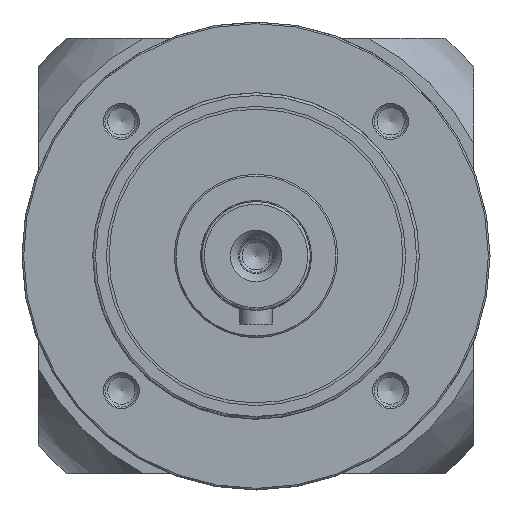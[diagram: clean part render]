
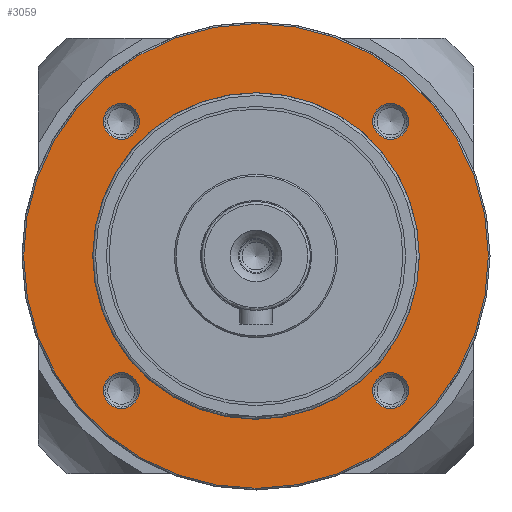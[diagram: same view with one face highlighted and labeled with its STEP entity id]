
A CAD part, left-side view. The second image highlights one B-rep face of the part: STEP entity #3059.
In plain terms, the highlighted planar face has unit normal (-1, 0, 0).
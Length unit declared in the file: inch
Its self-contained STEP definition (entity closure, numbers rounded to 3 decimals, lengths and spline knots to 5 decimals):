
#206=FACE_BOUND('',#540,.T.);
#207=FACE_BOUND('',#541,.T.);
#208=FACE_BOUND('',#542,.T.);
#209=FACE_BOUND('',#543,.T.);
#210=FACE_BOUND('',#544,.T.);
#247=PLANE('',#3295);
#338=FACE_OUTER_BOUND('',#539,.T.);
#539=EDGE_LOOP('',(#2103));
#540=EDGE_LOOP('',(#2104));
#541=EDGE_LOOP('',(#2105));
#542=EDGE_LOOP('',(#2106));
#543=EDGE_LOOP('',(#2107));
#544=EDGE_LOOP('',(#2108));
#1092=CIRCLE('',#3285,1.6811);
#1098=CIRCLE('',#3296,0.12992);
#1099=CIRCLE('',#3297,0.12992);
#1100=CIRCLE('',#3298,0.12992);
#1101=CIRCLE('',#3299,1.1811);
#1102=CIRCLE('',#3300,0.12992);
#1304=VERTEX_POINT('',#4675);
#1308=VERTEX_POINT('',#4691);
#1309=VERTEX_POINT('',#4693);
#1310=VERTEX_POINT('',#4695);
#1311=VERTEX_POINT('',#4697);
#1312=VERTEX_POINT('',#4699);
#1618=EDGE_CURVE('',#1304,#1304,#1092,.T.);
#1625=EDGE_CURVE('',#1308,#1308,#1098,.T.);
#1626=EDGE_CURVE('',#1309,#1309,#1099,.T.);
#1627=EDGE_CURVE('',#1310,#1310,#1100,.T.);
#1628=EDGE_CURVE('',#1311,#1311,#1101,.T.);
#1629=EDGE_CURVE('',#1312,#1312,#1102,.T.);
#2103=ORIENTED_EDGE('',*,*,#1618,.F.);
#2104=ORIENTED_EDGE('',*,*,#1625,.T.);
#2105=ORIENTED_EDGE('',*,*,#1626,.T.);
#2106=ORIENTED_EDGE('',*,*,#1627,.T.);
#2107=ORIENTED_EDGE('',*,*,#1628,.F.);
#2108=ORIENTED_EDGE('',*,*,#1629,.T.);
#3059=ADVANCED_FACE('',(#338,#206,#207,#208,#209,#210),#247,.T.);
#3285=AXIS2_PLACEMENT_3D('',#4676,#3702,#3703);
#3295=AXIS2_PLACEMENT_3D('',#4690,#3723,#3724);
#3296=AXIS2_PLACEMENT_3D('',#4692,#3725,#3726);
#3297=AXIS2_PLACEMENT_3D('',#4694,#3727,#3728);
#3298=AXIS2_PLACEMENT_3D('',#4696,#3729,#3730);
#3299=AXIS2_PLACEMENT_3D('',#4698,#3731,#3732);
#3300=AXIS2_PLACEMENT_3D('',#4700,#3733,#3734);
#3702=DIRECTION('center_axis',(1.,0.,0.));
#3703=DIRECTION('ref_axis',(0.,-1.,0.));
#3723=DIRECTION('center_axis',(-1.,0.,0.));
#3724=DIRECTION('ref_axis',(0.,1.,0.));
#3725=DIRECTION('center_axis',(1.,0.,0.));
#3726=DIRECTION('ref_axis',(0.,0.,-1.));
#3727=DIRECTION('center_axis',(1.,0.,0.));
#3728=DIRECTION('ref_axis',(0.,0.,-1.));
#3729=DIRECTION('center_axis',(1.,0.,0.));
#3730=DIRECTION('ref_axis',(0.,0.,-1.));
#3731=DIRECTION('center_axis',(-1.,0.,0.));
#3732=DIRECTION('ref_axis',(0.,1.,0.));
#3733=DIRECTION('center_axis',(1.,0.,0.));
#3734=DIRECTION('ref_axis',(0.,0.,-1.));
#4675=CARTESIAN_POINT('',(0.,1.68109,-0.00737));
#4676=CARTESIAN_POINT('Origin',(0.,0.,0.));
#4690=CARTESIAN_POINT('Origin',(0.,0.,0.));
#4691=CARTESIAN_POINT('',(0.,0.97436,-0.84444));
#4692=CARTESIAN_POINT('Origin',(0.,0.97436,-0.97436));
#4693=CARTESIAN_POINT('',(0.,-0.97436,-0.84444));
#4694=CARTESIAN_POINT('Origin',(0.,-0.97436,-0.97436));
#4695=CARTESIAN_POINT('',(0.,-0.97436,1.10428));
#4696=CARTESIAN_POINT('Origin',(0.,-0.97436,0.97436));
#4697=CARTESIAN_POINT('',(0.,-1.18105,-0.011));
#4698=CARTESIAN_POINT('Origin',(0.,0.,0.));
#4699=CARTESIAN_POINT('',(0.,0.97436,1.10428));
#4700=CARTESIAN_POINT('Origin',(0.,0.97436,0.97436));
